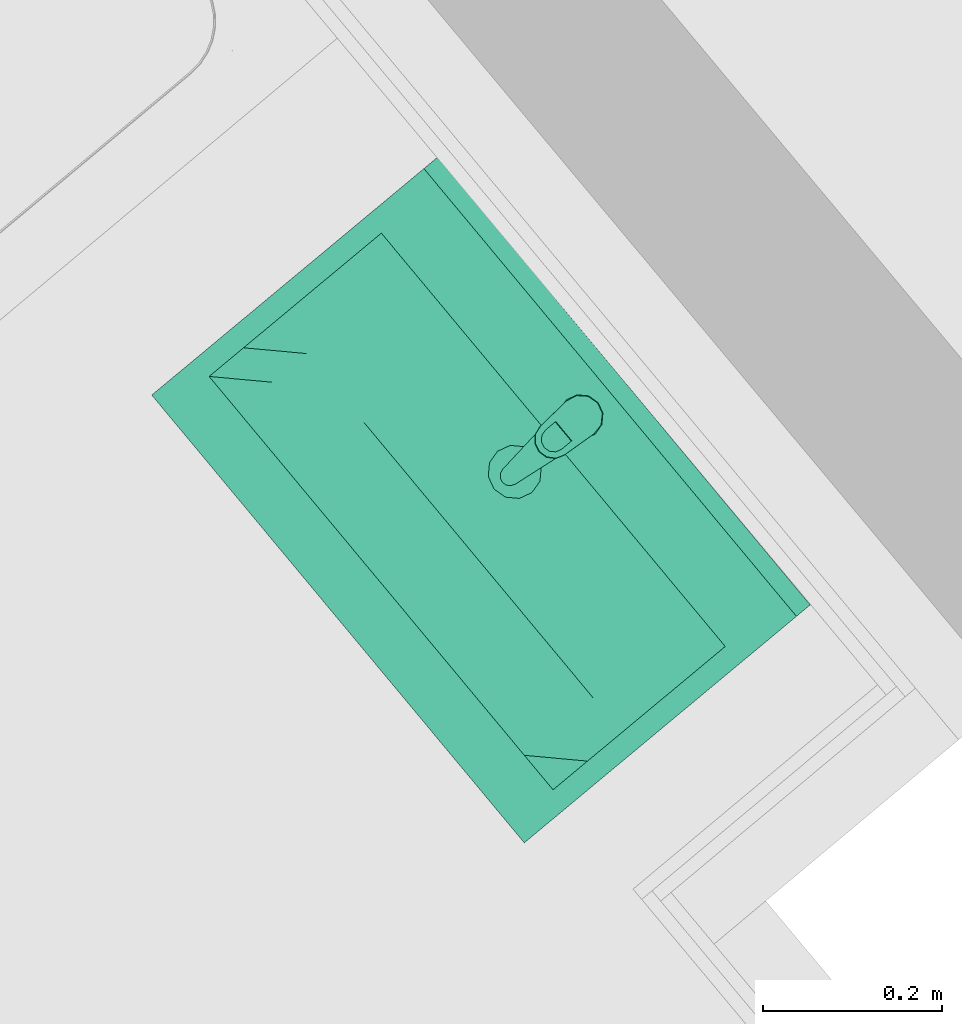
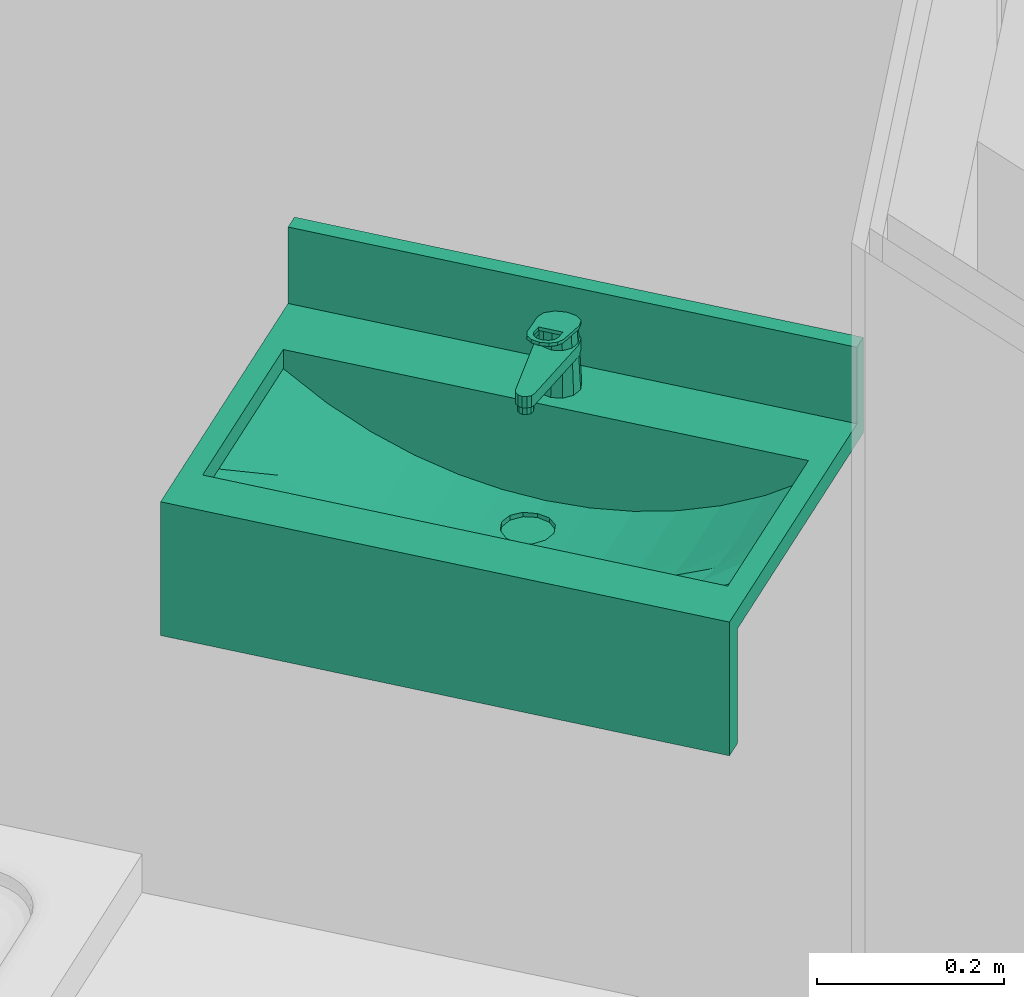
# One storey, part 66 of 75: 1 sanitary terminal.
"""IFC4 building model written with IfcOpenShell, lengths in metres."""

from ifc_helpers import new_model, entity, si_unit, converted_unit, derived_unit, direction, frame, origin_with_axes, place, context, subcontext, project, spatial, polygons, source, transform, mapped, type_object, element, save


model = new_model("IFC4")

# Units and contexts
model_context = context("Model", 3, precision=1e-05, world=origin_with_axes(), true_north=direction((0.0, 1.0)))
body_context = subcontext(model_context, "Body", "Model", "MODEL_VIEW")
ifc_project = project(units=[si_unit("LENGTHUNIT", "METRE"), si_unit("AREAUNIT", "SQUARE_METRE"), si_unit("VOLUMEUNIT", "CUBIC_METRE"), converted_unit("PLANEANGLEUNIT", "DEGREE", entity("IfcPlaneAngleMeasure", 0.0174532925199), si_unit("PLANEANGLEUNIT", "RADIAN"), dimensions=[0, 0, 0, 0, 0, 0, 0]), converted_unit("TIMEUNIT", "Year", entity("IfcTimeMeasure", 31556926.0), si_unit("TIMEUNIT", "SECOND"), dimensions=[0, 0, 1, 0, 0, 0, 0]), si_unit("MASSUNIT", "GRAM", prefix="KILO"), si_unit("THERMODYNAMICTEMPERATUREUNIT", "DEGREE_CELSIUS"), si_unit("LUMINOUSINTENSITYUNIT", "LUMEN"), si_unit("ENERGYUNIT", "JOULE", prefix="MEGA"), derived_unit("THERMALCONDUCTANCEUNIT", [(si_unit("POWERUNIT", "WATT"), 1), (si_unit("LENGTHUNIT", "METRE"), -1), (si_unit("THERMODYNAMICTEMPERATUREUNIT", "KELVIN"), -1)]), derived_unit("SPECIFICHEATCAPACITYUNIT", [(si_unit("ENERGYUNIT", "JOULE"), 1), (si_unit("MASSUNIT", "GRAM", prefix="KILO"), -1), (si_unit("THERMODYNAMICTEMPERATUREUNIT", "KELVIN"), -1)]), derived_unit("MASSDENSITYUNIT", [(si_unit("MASSUNIT", "GRAM", prefix="KILO"), 1), (si_unit("VOLUMEUNIT", "CUBIC_METRE"), -1)])], contexts=[model_context])

# Site, building, storey, space
site_placement = place(None, frame((-0.00153261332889, -0.00661245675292, 0.0), z_axis=(0.0, 0.0, 1.0), x_axis=(1.0, 0.0, 0.0)))
site = spatial("IfcSite", under=ifc_project, at=site_placement, Name="Gelände", CompositionType="ELEMENT")
building_placement = place(site_placement, origin_with_axes())
building = spatial("IfcBuilding", under=site, at=building_placement, Name="Gebäude", CompositionType="ELEMENT")
storey_placement = place(building_placement, frame((0.0, 0.0, -0.22), z_axis=(0.0, 0.0, 1.0), x_axis=(1.0, 0.0, 0.0)))
storey = spatial("IfcBuildingStorey", under=building, at=storey_placement, Name="EG", CompositionType="ELEMENT", Elevation=-0.22)
space_placement = place(storey_placement, frame((-3.1556815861, 20.6918817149, 0.22), z_axis=(0.0, 0.0, 1.0), x_axis=(0.767365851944, 0.64120952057, 0.0)))
space = spatial("IfcSpace", under=storey, at=space_placement, CompositionType="ELEMENT", PredefinedType="NOTDEFINED")

# Sanitary terminal
sanitary_terminal_type = type_object("IfcSanitaryTerminalType", Name="Waschbecken mehrfach 26", PredefinedType="NOTDEFINED")
shared_shape = source(origin_with_axes(), body_context, "Body", "Tessellation", [
    polygons([(-0.325, 0.0, 0.875), (0.325, 0.0, 0.875), (0.325, -0.415119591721, 0.875), (-0.325, -0.415119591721, 0.875), (-0.3, -0.35255979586, 0.875), (0.3, -0.35255979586, 0.875), (0.3, -0.10255979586, 0.875), (-0.3, -0.10255979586, 0.875), (-0.325, 0.0, 0.9), (0.325, 0.0, 0.9), (0.325, -0.415119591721, 0.9), (-0.325, -0.415119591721, 0.9), (-0.3, -0.35255979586, 0.9), (0.3, -0.35255979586, 0.9), (0.3, -0.10255979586, 0.9), (-0.3, -0.10255979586, 0.9)], [[[1, 2, 3, 4], [5, 6, 7, 8]], [[1, 9, 10, 2]], [[2, 10, 11, 3]], [[3, 11, 12, 4]], [[4, 12, 9, 1]], [[13, 14, 6, 5]], [[14, 15, 7, 6]], [[15, 16, 8, 7]], [[16, 13, 5, 8]], [[11, 10, 9, 12], [13, 16, 15, 14]]], closed=True),
    polygons([(-0.325, -0.02, 0.9), (0.325, -0.02, 0.9), (0.325, -0.02, 1.0), (-0.325, -0.02, 1.0), (-0.325, 0.0, 0.9), (0.325, 0.0, 0.9), (0.325, 0.0, 1.0), (-0.325, 0.0, 1.0)], [[[1, 2, 3, 4]], [[1, 5, 6, 2]], [[2, 6, 7, 3]], [[4, 3, 7, 8]], [[5, 1, 4, 8]], [[6, 5, 8, 7]]], closed=True),
    polygons([(-0.325, -0.415119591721, 0.725), (0.325, -0.415119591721, 0.725), (0.325, -0.415119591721, 0.875), (-0.325, -0.415119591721, 0.875), (-0.325, -0.390119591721, 0.725), (0.325, -0.390119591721, 0.725), (0.325, -0.390119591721, 0.875), (-0.325, -0.390119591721, 0.875)], [[[1, 2, 3, 4]], [[1, 5, 6, 2]], [[2, 6, 7, 3]], [[4, 3, 7, 8]], [[5, 1, 4, 8]], [[6, 5, 8, 7]]], closed=True),
    polygons([(0.0, -0.18855104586, 0.775), (-0.015, -0.184531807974, 0.775751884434), (-0.0259807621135, -0.17355104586, 0.776302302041), (-0.03, -0.15855104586, 0.776503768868), (-0.0283946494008, -0.15255979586, 0.77642329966), (-0.05, -0.15255979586, 0.777506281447), (-0.05, -0.20255979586, 0.777506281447), (0.0, -0.20255979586, 0.775), (-0.015, -0.132570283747, 0.775751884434), (0.0, -0.12855104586, 0.775), (0.0, -0.10255979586, 0.775), (-0.05, -0.10255979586, 0.777506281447), (-0.0259807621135, -0.14355104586, 0.776302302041), (-0.1, -0.15255979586, 0.785102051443), (-0.1, -0.20255979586, 0.785102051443), (-0.05, -0.25255979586, 0.788254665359), (0.05, -0.15255979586, 0.777506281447), (0.0283946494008, -0.15255979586, 0.77642329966), (0.03, -0.15855104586, 0.776503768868), (0.0259807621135, -0.17355104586, 0.776302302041), (0.015, -0.184531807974, 0.775751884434), (0.05, -0.20255979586, 0.777506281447), (0.015, -0.132570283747, 0.775751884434), (0.0259807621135, -0.14355104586, 0.776302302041), (0.05, -0.10255979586, 0.777506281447), (0.15, -0.10255979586, 0.798030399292), (0.2, -0.10255979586, 0.816742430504), (0.25, -0.10255979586, 0.841987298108), (0.3, -0.10255979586, 0.875), (-0.3, -0.10255979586, 0.875), (-0.25, -0.10255979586, 0.841987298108), (-0.2, -0.10255979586, 0.816742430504), (-0.15, -0.10255979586, 0.798030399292), (-0.1, -0.10255979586, 0.785102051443), (0.1, -0.10255979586, 0.785102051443), (-0.15, -0.15255979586, 0.798030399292), (-0.15, -0.20255979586, 0.798030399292), (-0.1, -0.25255979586, 0.795144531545), (0.0, -0.25255979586, 0.785977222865), (0.1, -0.20255979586, 0.785102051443), (0.1, -0.15255979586, 0.785102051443), (0.2, -0.15255979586, 0.816742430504), (0.15, -0.15255979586, 0.798030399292), (0.25, -0.15255979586, 0.841987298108), (0.3, -0.15255979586, 0.875), (-0.25, -0.15255979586, 0.841987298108), (-0.3, -0.15255979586, 0.875), (-0.2, -0.15255979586, 0.816742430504), (-0.2, -0.20255979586, 0.816742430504), (-0.15, -0.25255979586, 0.806826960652), (-0.05, -0.30255979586, 0.830189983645), (-0.1, -0.30255979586, 0.83395176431), (0.05, -0.25255979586, 0.788254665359), (0.15, -0.20255979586, 0.798030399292), (0.2, -0.20255979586, 0.816742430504), (0.25, -0.20255979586, 0.841987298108), (0.3, -0.20255979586, 0.875), (0.3, -0.25255979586, 0.875), (0.3, -0.30255979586, 0.875), (0.3, -0.35255979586, 0.875), (-0.3, -0.25255979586, 0.875), (-0.3, -0.20255979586, 0.875), (-0.3, -0.35255979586, 0.875), (-0.3, -0.30255979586, 0.875), (-0.25, -0.20255979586, 0.841987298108), (-0.2, -0.25255979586, 0.823629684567), (-0.15, -0.30255979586, 0.840253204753), (0.0, -0.30255979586, 0.828939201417), (0.1, -0.25255979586, 0.795144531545), (0.15, -0.25255979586, 0.806826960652), (0.2, -0.25255979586, 0.823629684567), (0.25, -0.25255979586, 0.846079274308), (0.25, -0.30255979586, 0.860693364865), (0.25, -0.35255979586, 0.875), (-0.25, -0.30255979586, 0.860693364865), (-0.25, -0.25255979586, 0.846079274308), (-0.2, -0.30255979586, 0.849143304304), (-0.05, -0.35255979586, 0.875), (-0.1, -0.35255979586, 0.875), (-0.15, -0.35255979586, 0.875), (0.05, -0.30255979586, 0.830189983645), (-0.2, -0.35255979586, 0.875), (-0.25, -0.35255979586, 0.875), (0.2, -0.35255979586, 0.875), (0.15, -0.35255979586, 0.875), (0.1, -0.35255979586, 0.875), (0.05, -0.35255979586, 0.875), (0.0, -0.35255979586, 0.875), (0.1, -0.30255979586, 0.83395176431), (0.15, -0.30255979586, 0.840253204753), (0.2, -0.30255979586, 0.849143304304)], [[[1, 2, 3, 4, 5, 6, 7, 8]], [[9, 10, 11, 12, 6, 5, 13]], [[7, 6, 14, 15]], [[16, 8, 7]], [[17, 18, 19, 20, 21, 1, 8, 22]], [[10, 23, 24, 18, 17, 25, 11]], [[26, 27, 28, 29, 30, 31, 32, 33, 34, 12, 11, 25, 35]], [[6, 12, 34, 14]], [[15, 14, 36, 37]], [[38, 7, 15]], [[16, 39, 8]], [[38, 16, 7]], [[39, 22, 8]], [[40, 41, 17, 22]], [[41, 35, 25, 17]], [[42, 27, 26, 43]], [[44, 28, 27, 42]], [[45, 29, 28, 44]], [[46, 31, 30, 47]], [[48, 32, 31, 46]], [[36, 33, 32, 48]], [[14, 34, 33, 36]], [[43, 26, 35, 41]], [[37, 36, 48, 49]], [[50, 15, 37]], [[50, 38, 15]], [[51, 39, 16]], [[52, 16, 38]], [[39, 53, 22]], [[54, 43, 41, 40]], [[53, 40, 22]], [[55, 42, 43, 54]], [[56, 44, 42, 55]], [[57, 58, 59, 60, 29, 45]], [[57, 45, 44, 56]], [[61, 62, 47, 30, 63, 64]], [[65, 46, 47, 62]], [[49, 48, 46, 65]], [[66, 37, 49]], [[66, 50, 37]], [[67, 38, 50]], [[51, 68, 39]], [[52, 51, 16]], [[67, 52, 38]], [[68, 53, 39]], [[69, 54, 40]], [[53, 69, 40]], [[70, 55, 54]], [[71, 56, 55]], [[72, 58, 57]], [[73, 59, 58]], [[74, 60, 59]], [[72, 57, 56]], [[61, 65, 62]], [[63, 75, 64]], [[64, 76, 61]], [[76, 49, 65]], [[76, 66, 49]], [[77, 50, 66]], [[77, 67, 50]], [[78, 68, 51]], [[79, 51, 52]], [[80, 52, 67]], [[68, 81, 53]], [[69, 70, 54]], [[81, 69, 53]], [[70, 71, 55]], [[71, 72, 56]], [[73, 58, 72]], [[74, 59, 73]], [[80, 82, 83, 63, 60, 74, 84, 85, 86, 87, 88, 78, 79]], [[61, 76, 65]], [[63, 83, 75]], [[64, 75, 76]], [[75, 66, 76]], [[75, 77, 66]], [[82, 67, 77]], [[78, 88, 68]], [[79, 78, 51]], [[80, 79, 52]], [[82, 80, 67]], [[88, 81, 68]], [[89, 70, 69]], [[81, 89, 69]], [[90, 71, 70]], [[91, 72, 71]], [[91, 73, 72]], [[84, 74, 73]], [[83, 82, 77]], [[85, 84, 91]], [[86, 85, 90]], [[87, 86, 89]], [[88, 87, 81]], [[83, 77, 75]], [[89, 90, 70]], [[87, 89, 81]], [[90, 91, 71]], [[84, 73, 91]], [[85, 91, 90]], [[86, 90, 89]]], closed=False),
    polygons([(0.03, -0.15855104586, 0.776503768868), (0.0259807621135, -0.17355104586, 0.776302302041), (0.0259807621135, -0.17355104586, 0.77), (0.03, -0.15855104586, 0.77), (0.015, -0.184531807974, 0.775751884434), (0.015, -0.184531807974, 0.77), (0.0, -0.12855104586, 0.77), (0.015, -0.132570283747, 0.77), (0.0259807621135, -0.14355104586, 0.77), (0.0, -0.18855104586, 0.77), (-0.015, -0.184531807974, 0.77), (-0.0259807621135, -0.17355104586, 0.77), (-0.03, -0.15855104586, 0.77), (-0.0259807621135, -0.14355104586, 0.77), (-0.015, -0.132570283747, 0.77), (0.0259807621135, -0.14355104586, 0.776302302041), (0.0, -0.18855104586, 0.775), (0.0, -0.12855104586, 0.775), (0.015, -0.132570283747, 0.775751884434), (-0.015, -0.184531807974, 0.775751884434), (-0.0259807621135, -0.17355104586, 0.776302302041), (-0.03, -0.15855104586, 0.776503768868), (-0.0259807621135, -0.14355104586, 0.776302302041), (-0.015, -0.132570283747, 0.775751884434)], [[[1, 2, 3, 4]], [[2, 5, 6, 3]], [[7, 8, 9, 4, 3, 6, 10, 11, 12, 13, 14, 15]], [[16, 1, 4, 9]], [[5, 17, 10, 6]], [[18, 19, 8, 7]], [[19, 16, 9, 8]], [[17, 20, 11, 10]], [[20, 21, 12, 11]], [[21, 22, 13, 12]], [[22, 23, 14, 13]], [[23, 24, 15, 14]], [[24, 18, 7, 15]]], closed=False),
    polygons([(0.0125, -0.0409091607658, 0.9), (0.0, -0.0375597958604, 0.9), (0.0, -0.0413578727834, 0.975961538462), (0.0105873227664, -0.0442220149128, 0.976507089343), (0.0216506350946, -0.0500597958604, 0.9), (0.025, -0.0625597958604, 0.9), (0.0216506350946, -0.0750597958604, 0.9), (0.0125, -0.084210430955, 0.9), (0.0, -0.0875597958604, 0.9), (-0.0125, -0.084210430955, 0.9), (-0.0216506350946, -0.0750597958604, 0.9), (-0.025, -0.0625597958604, 0.9), (-0.0216506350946, -0.0500597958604, 0.9), (-0.0125, -0.0409091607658, 0.9), (-0.0105873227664, -0.0442220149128, 0.976507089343), (-0.0182735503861, -0.0520095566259, 0.977990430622), (-0.021, -0.0625597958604, 0.98), (-0.0181003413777, -0.0730100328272, 0.981990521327), (-0.0104141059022, -0.0805975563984, 0.983435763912), (0.0, -0.0833616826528, 0.983962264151), (0.0104141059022, -0.0805975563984, 0.983435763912), (0.0181003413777, -0.0730100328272, 0.981990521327), (0.021, -0.0625597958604, 0.98), (0.0182735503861, -0.0520095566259, 0.977990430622)], [[[1, 2, 3, 4]], [[1, 5, 6, 7, 8, 9, 10, 11, 12, 13, 14, 2]], [[2, 14, 15, 3]], [[4, 3, 15, 16, 17, 18, 19, 20, 21, 22, 23, 24]], [[5, 1, 4, 24]], [[6, 5, 24, 23]], [[7, 6, 23, 22]], [[8, 7, 22, 21]], [[9, 8, 21, 20]], [[10, 9, 20, 19]], [[11, 10, 19, 18]], [[12, 11, 18, 17]], [[13, 12, 17, 16]], [[14, 13, 16, 15]]], closed=True),
    polygons([(0.009, -0.16555979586, 0.935), (0.00779422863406, -0.16105979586, 0.935), (0.00779422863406, -0.16105979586, 0.945), (0.009, -0.16555979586, 0.945), (0.00779422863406, -0.17005979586, 0.935), (0.0045, -0.173354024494, 0.935), (0.0, -0.17455979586, 0.935), (-0.0045, -0.173354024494, 0.935), (-0.00779422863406, -0.17005979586, 0.935), (-0.009, -0.16555979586, 0.935), (-0.00779422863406, -0.16105979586, 0.935), (-0.0045, -0.157765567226, 0.935), (0.0, -0.15655979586, 0.935), (0.0045, -0.157765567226, 0.935), (0.0045, -0.157765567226, 0.945), (0.0, -0.15655979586, 0.945), (-0.0045, -0.157765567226, 0.945), (-0.00779422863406, -0.16105979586, 0.945), (-0.009, -0.16555979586, 0.945), (-0.00779422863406, -0.17005979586, 0.945), (-0.0045, -0.173354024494, 0.945), (0.0, -0.17455979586, 0.945), (0.0045, -0.173354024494, 0.945), (0.00779422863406, -0.17005979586, 0.945)], [[[1, 2, 3, 4]], [[1, 5, 6, 7, 8, 9, 10, 11, 12, 13, 14, 2]], [[2, 14, 15, 3]], [[4, 3, 15, 16, 17, 18, 19, 20, 21, 22, 23, 24]], [[5, 1, 4, 24]], [[6, 5, 24, 23]], [[7, 6, 23, 22]], [[8, 7, 22, 21]], [[9, 8, 21, 20]], [[10, 9, 20, 19]], [[11, 10, 19, 18]], [[12, 11, 18, 17]], [[13, 12, 17, 16]], [[14, 13, 16, 15]]], closed=True),
    polygons([(-0.0128717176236, -0.0423034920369, 0.96), (-0.021727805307, -0.0523665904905, 0.96), (-0.0238054, -0.0656096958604, 0.96), (-0.010911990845, -0.166948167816, 0.96), (-0.00902887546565, -0.17184299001, 0.96), (-0.00509332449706, -0.175309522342, 0.96), (3.62679860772e-08, -0.176559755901, 0.96), (0.00509338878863, -0.175309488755, 0.96), (0.00902891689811, -0.171842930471, 0.96), (0.010912, -0.16694809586, 0.96), (0.0238053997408, -0.0656096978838, 0.96), (0.0217278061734, -0.0523665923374, 0.96), (0.0128717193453, -0.042303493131, 0.96), (1.01998896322e-09, -0.0385598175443, 0.96), (0.011, -0.0435072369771, 0.96), (0.0190525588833, -0.0515597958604, 0.96), (0.022, -0.0625597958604, 0.96), (0.0190525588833, -0.0735597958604, 0.96), (0.011, -0.0816123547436, 0.96), (0.0, -0.0845597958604, 0.96), (-0.011, -0.0816123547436, 0.96), (-0.0190525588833, -0.0735597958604, 0.96), (-0.022, -0.0625597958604, 0.96), (-0.0190525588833, -0.0515597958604, 0.96), (-0.011, -0.0435072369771, 0.96), (0.0, -0.0405597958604, 0.96), (-0.021727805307, -0.0523665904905, 0.945), (-0.0128717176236, -0.0423034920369, 0.945), (-0.0238054, -0.0656096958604, 0.945), (-0.010911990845, -0.166948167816, 0.945), (-0.00902887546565, -0.17184299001, 0.945), (-0.00509332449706, -0.175309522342, 0.945), (3.62679860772e-08, -0.176559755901, 0.945), (0.00509338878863, -0.175309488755, 0.945), (0.00902891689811, -0.171842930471, 0.945), (0.010912, -0.16694809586, 0.945), (0.0238053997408, -0.0656096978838, 0.945), (0.0217278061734, -0.0523665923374, 0.945), (0.0128717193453, -0.042303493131, 0.945), (1.01998896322e-09, -0.0385598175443, 0.945), (0.011375, -0.0428577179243, 0.945), (0.0197020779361, -0.0511847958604, 0.945), (0.02275, -0.0625597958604, 0.945), (0.0197020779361, -0.0739347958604, 0.945), (0.011375, -0.0822618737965, 0.945), (0.0, -0.0853097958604, 0.945), (-0.011375, -0.0822618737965, 0.945), (-0.0197020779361, -0.0739347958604, 0.945), (-0.02275, -0.0625597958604, 0.945), (-0.0197020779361, -0.0511847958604, 0.945), (-0.011375, -0.0428577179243, 0.945), (0.0, -0.0398097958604, 0.945)], [[[1, 2, 3, 4, 5, 6, 7, 8, 9, 10, 11, 12, 13, 14], [15, 16, 17, 18, 19, 20, 21, 22, 23, 24, 25, 26]], [[27, 2, 1, 28]], [[29, 3, 2, 27]], [[30, 4, 3, 29]], [[31, 5, 4, 30]], [[32, 6, 5, 31]], [[33, 7, 6, 32]], [[34, 8, 7, 33]], [[35, 9, 8, 34]], [[36, 10, 9, 35]], [[37, 11, 10, 36]], [[38, 12, 11, 37]], [[39, 13, 12, 38]], [[40, 14, 13, 39]], [[28, 1, 14, 40]], [[41, 42, 16, 15]], [[42, 43, 17, 16]], [[43, 44, 18, 17]], [[44, 45, 19, 18]], [[45, 46, 20, 19]], [[21, 20, 46, 47]], [[22, 21, 47, 48]], [[23, 22, 48, 49]], [[24, 23, 49, 50]], [[25, 24, 50, 51]], [[51, 52, 26, 25]], [[52, 41, 15, 26]], [[33, 32, 31, 30, 29, 27, 28, 40, 39, 38, 37, 36, 35, 34], [45, 44, 43, 42, 41, 52, 51, 50, 49, 48, 47, 46]]], closed=True),
    polygons([(0.023893, -0.0642523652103, 0.980322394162), (0.0212964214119, -0.0517850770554, 0.977947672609), (0.0212964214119, -0.0510366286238, 0.981877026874), (0.023893, -0.0635039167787, 0.984251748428), (0.0209459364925, -0.104396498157, 0.987968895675), (0.0176631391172, -0.114074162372, 0.989812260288), (0.0100614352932, -0.121023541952, 0.991135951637), (-4.42652908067e-07, -0.123545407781, 0.991616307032), (-0.0100622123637, -0.121023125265, 0.991135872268), (-0.0176636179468, -0.114073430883, 0.989812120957), (-0.020946, -0.104395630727, 0.987968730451), (-0.023893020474, -0.0642520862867, 0.980322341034), (-0.0212962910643, -0.0517848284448, 0.977947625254), (-0.0124716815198, -0.0424685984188, 0.976173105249), (1.42337785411e-07, -0.0390278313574, 0.975517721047), (0.0124719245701, -0.0424687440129, 0.976173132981), (0.014, -0.0881005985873, 0.984864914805), (-0.014, -0.0881005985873, 0.984864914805), (-0.014, -0.102916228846, 0.987686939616), (-0.012124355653, -0.109792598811, 0.988996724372), (-0.007, -0.114826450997, 0.989955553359), (0.0, -0.116668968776, 0.990306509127), (0.007, -0.114826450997, 0.989955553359), (0.012124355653, -0.109792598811, 0.988996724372), (0.014, -0.102916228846, 0.987686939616), (0.0124719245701, -0.0417202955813, 0.980102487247), (1.42337785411e-07, -0.0382793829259, 0.979447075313), (-0.0124716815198, -0.0417201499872, 0.980102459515), (-0.0212962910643, -0.0510363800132, 0.98187697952), (-0.023893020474, -0.0635036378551, 0.984251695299), (-0.020946, -0.103647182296, 0.991898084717), (-0.0176636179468, -0.113324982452, 0.993741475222), (-0.0100622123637, -0.120274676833, 0.995065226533), (-4.42652908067e-07, -0.122796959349, 0.995545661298), (0.0100614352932, -0.120275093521, 0.995065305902), (0.0176631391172, -0.11332571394, 0.993741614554), (0.0209459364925, -0.103648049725, 0.991898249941), (0.014, -0.0873521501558, 0.988794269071), (0.014, -0.102167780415, 0.991616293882), (0.012124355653, -0.10904415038, 0.992926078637), (0.007, -0.114078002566, 0.993884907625), (0.0, -0.115920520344, 0.994235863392), (-0.007, -0.114078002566, 0.993884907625), (-0.012124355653, -0.10904415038, 0.992926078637), (-0.014, -0.102167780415, 0.991616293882), (-0.014, -0.0873521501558, 0.988794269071)], [[[1, 2, 3, 4]], [[1, 5, 6, 7, 8, 9, 10, 11, 12, 13, 14, 15, 16, 2], [17, 18, 19, 20, 21, 22, 23, 24, 25]], [[2, 16, 26, 3]], [[4, 3, 26, 27, 28, 29, 30, 31, 32, 33, 34, 35, 36, 37], [38, 39, 40, 41, 42, 43, 44, 45, 46]], [[5, 1, 4, 37]], [[6, 5, 37, 36]], [[7, 6, 36, 35]], [[8, 7, 35, 34]], [[9, 8, 34, 33]], [[10, 9, 33, 32]], [[11, 10, 32, 31]], [[12, 11, 31, 30]], [[13, 12, 30, 29]], [[14, 13, 29, 28]], [[15, 14, 28, 27]], [[16, 15, 27, 26]], [[18, 17, 38, 46]], [[19, 18, 46, 45]], [[20, 19, 45, 44]], [[21, 20, 44, 43]], [[22, 21, 43, 42]], [[23, 22, 42, 41]], [[24, 23, 41, 40]], [[25, 24, 40, 39]], [[17, 25, 39, 38]]], closed=True),
])
sanitary_terminal_placement = place(space_placement, frame((0.355704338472, 0.441573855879, -0.075), z_axis=(0.0, 0.0, 1.0), x_axis=(-0.00208980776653, -0.999997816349, 0.0)))
element("IfcSanitaryTerminal", 1, at=sanitary_terminal_placement, inside=space, type_object=sanitary_terminal_type, Name="Objekt-0009", PredefinedType="NOTDEFINED", context=body_context, shape_type="MappedRepresentation", body=[
    mapped(shared_shape, transform((0.0, 0.0, 0.0))),
])

save(model, "model.ifc")
